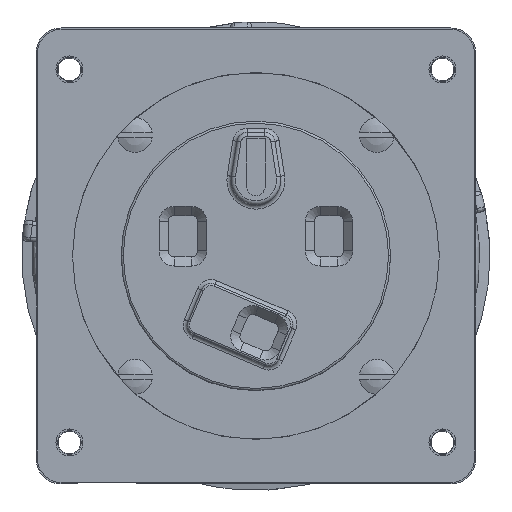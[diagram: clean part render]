
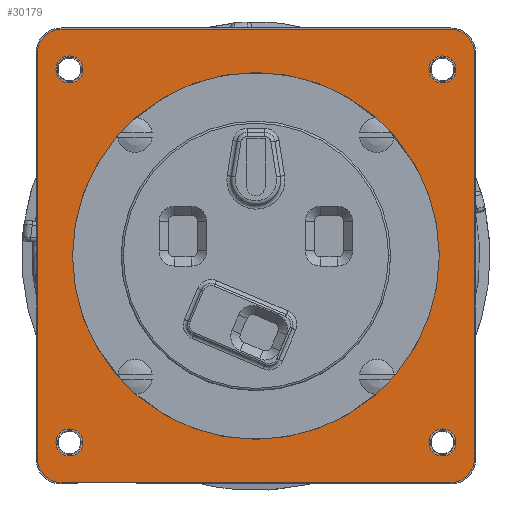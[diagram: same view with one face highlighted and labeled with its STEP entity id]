
A CAD part, top view. The second image highlights one B-rep face of the part: STEP entity #30179.
In plain terms, the highlighted planar face has unit normal (0, 0, 1).
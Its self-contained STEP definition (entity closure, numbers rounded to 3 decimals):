
#3889=CARTESIAN_POINT('',(-46.75,48.75,19.3));
#3890=DIRECTION('',(0.,0.,1.));
#3891=DIRECTION('',(0.,1.,0.));
#3892=AXIS2_PLACEMENT_3D('',#3889,#3890,#3891);
#3897=DIRECTION('',(-1.,0.,0.));
#3898=VECTOR('',#3897,93.5);
#3899=CARTESIAN_POINT('',(46.75,54.75,19.3));
#3900=LINE('3817',#3899,#3898);
#3904=CARTESIAN_POINT('',(46.75,48.75,19.3));
#3905=DIRECTION('',(0.,0.,1.));
#3906=DIRECTION('',(1.,0.,0.));
#3907=AXIS2_PLACEMENT_3D('',#3904,#3905,#3906);
#3912=DIRECTION('',(0.,1.,0.));
#3913=VECTOR('',#3912,97.5);
#3914=CARTESIAN_POINT('',(52.75,-48.75,19.3));
#3915=LINE('3815',#3914,#3913);
#3919=CARTESIAN_POINT('',(46.75,-48.75,19.3));
#3920=DIRECTION('',(0.,0.,1.));
#3921=DIRECTION('',(0.,-1.,0.));
#3922=AXIS2_PLACEMENT_3D('',#3919,#3920,#3921);
#3927=DIRECTION('',(1.,0.,0.));
#3928=VECTOR('',#3927,93.5);
#3929=CARTESIAN_POINT('',(-46.75,-54.75,19.3));
#3930=LINE('3813',#3929,#3928);
#3934=CARTESIAN_POINT('',(-46.75,-48.75,19.3));
#3935=DIRECTION('',(0.,0.,1.));
#3936=DIRECTION('',(-1.,0.,0.));
#3937=AXIS2_PLACEMENT_3D('',#3934,#3935,#3936);
#3942=DIRECTION('',(0.,-1.,0.));
#3943=VECTOR('',#3942,97.5);
#3944=CARTESIAN_POINT('',(-52.75,48.75,19.3));
#3945=LINE('3811',#3944,#3943);
#3949=CARTESIAN_POINT('',(0.,0.,19.3));
#3950=DIRECTION('',(0.,0.,-1.));
#3951=DIRECTION('',(1.,0.,0.));
#3952=AXIS2_PLACEMENT_3D('',#3949,#3950,#3951);
#3957=CARTESIAN_POINT('',(0.,0.,19.3));
#3958=DIRECTION('',(0.,0.,-1.));
#3959=DIRECTION('',(-1.,0.,0.));
#3960=AXIS2_PLACEMENT_3D('',#3957,#3958,#3959);
#3965=CARTESIAN_POINT('',(-45.,45.,19.3));
#3966=DIRECTION('',(0.,0.,1.));
#3967=DIRECTION('',(1.,0.,0.));
#3968=AXIS2_PLACEMENT_3D('',#3965,#3966,#3967);
#3973=CARTESIAN_POINT('',(-45.,45.,19.3));
#3974=DIRECTION('',(0.,0.,1.));
#3975=DIRECTION('',(-1.,0.,0.));
#3976=AXIS2_PLACEMENT_3D('',#3973,#3974,#3975);
#3981=CARTESIAN_POINT('',(45.,45.,19.3));
#3982=DIRECTION('',(0.,0.,1.));
#3983=DIRECTION('',(1.,0.,0.));
#3984=AXIS2_PLACEMENT_3D('',#3981,#3982,#3983);
#3989=CARTESIAN_POINT('',(45.,45.,19.3));
#3990=DIRECTION('',(0.,0.,1.));
#3991=DIRECTION('',(-1.,0.,0.));
#3992=AXIS2_PLACEMENT_3D('',#3989,#3990,#3991);
#3997=CARTESIAN_POINT('',(45.,-45.,19.3));
#3998=DIRECTION('',(0.,0.,1.));
#3999=DIRECTION('',(1.,0.,0.));
#4000=AXIS2_PLACEMENT_3D('',#3997,#3998,#3999);
#4005=CARTESIAN_POINT('',(45.,-45.,19.3));
#4006=DIRECTION('',(0.,0.,1.));
#4007=DIRECTION('',(-1.,0.,0.));
#4008=AXIS2_PLACEMENT_3D('',#4005,#4006,#4007);
#4013=CARTESIAN_POINT('',(-45.,-45.,19.3));
#4014=DIRECTION('',(0.,0.,1.));
#4015=DIRECTION('',(1.,0.,0.));
#4016=AXIS2_PLACEMENT_3D('',#4013,#4014,#4015);
#4021=CARTESIAN_POINT('',(-45.,-45.,19.3));
#4022=DIRECTION('',(0.,0.,1.));
#4023=DIRECTION('',(-1.,0.,0.));
#4024=AXIS2_PLACEMENT_3D('',#4021,#4022,#4023);
#25152=CARTESIAN_POINT('',(-46.75,54.75,19.3));
#25153=CARTESIAN_POINT('',(-52.75,48.75,19.3));
#25154=VERTEX_POINT('',#25152);
#25155=VERTEX_POINT('',#25153);
#25156=CARTESIAN_POINT('',(-52.75,-48.75,19.3));
#25157=VERTEX_POINT('',#25156);
#25158=CARTESIAN_POINT('',(-46.75,-54.75,19.3));
#25159=VERTEX_POINT('',#25158);
#25160=CARTESIAN_POINT('',(46.75,-54.75,19.3));
#25161=VERTEX_POINT('',#25160);
#25162=CARTESIAN_POINT('',(52.75,-48.75,19.3));
#25163=VERTEX_POINT('',#25162);
#25164=CARTESIAN_POINT('',(52.75,48.75,19.3));
#25165=VERTEX_POINT('',#25164);
#25166=CARTESIAN_POINT('',(46.75,54.75,19.3));
#25167=VERTEX_POINT('',#25166);
#25168=CARTESIAN_POINT('',(-41.75,45.,19.3));
#25169=CARTESIAN_POINT('',(-48.25,45.,19.3));
#25170=VERTEX_POINT('',#25168);
#25171=VERTEX_POINT('',#25169);
#25172=CARTESIAN_POINT('',(48.25,45.,19.3));
#25173=CARTESIAN_POINT('',(41.75,45.,19.3));
#25174=VERTEX_POINT('',#25172);
#25175=VERTEX_POINT('',#25173);
#25176=CARTESIAN_POINT('',(48.25,-45.,19.3));
#25177=CARTESIAN_POINT('',(41.75,-45.,19.3));
#25178=VERTEX_POINT('',#25176);
#25179=VERTEX_POINT('',#25177);
#25180=CARTESIAN_POINT('',(-41.75,-45.,19.3));
#25181=CARTESIAN_POINT('',(-48.25,-45.,19.3));
#25182=VERTEX_POINT('',#25180);
#25183=VERTEX_POINT('',#25181);
#25184=CARTESIAN_POINT('',(44.25,0.,19.3));
#25185=CARTESIAN_POINT('',(-44.25,0.,19.3));
#25186=VERTEX_POINT('',#25184);
#25187=VERTEX_POINT('',#25185);
#30134=CARTESIAN_POINT('',(0.,0.,19.3));
#30135=DIRECTION('',(0.,0.,1.));
#30136=DIRECTION('',(1.,0.,0.));
#30137=AXIS2_PLACEMENT_3D('',#30134,#30135,#30136);
#30138=PLANE('977',#30137);
#30139=ORIENTED_EDGE('3810',*,*,#29931,.F.);
#30140=ORIENTED_EDGE('3817',*,*,#29958,.F.);
#30141=ORIENTED_EDGE('3816',*,*,#29984,.F.);
#30142=ORIENTED_EDGE('3815',*,*,#30010,.F.);
#30143=ORIENTED_EDGE('3814',*,*,#30036,.F.);
#30144=ORIENTED_EDGE('3813',*,*,#30062,.F.);
#30145=ORIENTED_EDGE('3812',*,*,#30091,.F.);
#30146=ORIENTED_EDGE('3811',*,*,#30116,.F.);
#30147=EDGE_LOOP('977',(#30139,#30140,#30141,#30142,#30143,#30144,#30145,
#30146));
#30148=FACE_OUTER_BOUND('977',#30147,.F.);
#30150=ORIENTED_EDGE('3826',*,*,#30149,.F.);
#30152=ORIENTED_EDGE('3827',*,*,#30151,.F.);
#30153=EDGE_LOOP('977',(#30150,#30152));
#30154=FACE_BOUND('977',#30153,.F.);
#30156=ORIENTED_EDGE('3818',*,*,#30155,.T.);
#30158=ORIENTED_EDGE('3819',*,*,#30157,.T.);
#30159=EDGE_LOOP('977',(#30156,#30158));
#30160=FACE_BOUND('977',#30159,.F.);
#30162=ORIENTED_EDGE('3820',*,*,#30161,.T.);
#30164=ORIENTED_EDGE('3821',*,*,#30163,.T.);
#30165=EDGE_LOOP('977',(#30162,#30164));
#30166=FACE_BOUND('977',#30165,.F.);
#30168=ORIENTED_EDGE('3822',*,*,#30167,.T.);
#30170=ORIENTED_EDGE('3823',*,*,#30169,.T.);
#30171=EDGE_LOOP('977',(#30168,#30170));
#30172=FACE_BOUND('977',#30171,.F.);
#30174=ORIENTED_EDGE('3824',*,*,#30173,.T.);
#30176=ORIENTED_EDGE('3825',*,*,#30175,.T.);
#30177=EDGE_LOOP('977',(#30174,#30176));
#30178=FACE_BOUND('977',#30177,.F.);
#3893=CIRCLE('3810',#3892,6.);
#3908=CIRCLE('3816',#3907,6.);
#3923=CIRCLE('3814',#3922,6.);
#3938=CIRCLE('3812',#3937,6.);
#3953=CIRCLE('3826',#3952,44.25);
#3961=CIRCLE('3827',#3960,44.25);
#3969=CIRCLE('3818',#3968,3.25);
#3977=CIRCLE('3819',#3976,3.25);
#3985=CIRCLE('3820',#3984,3.25);
#3993=CIRCLE('3821',#3992,3.25);
#4001=CIRCLE('3822',#4000,3.25);
#4009=CIRCLE('3823',#4008,3.25);
#4017=CIRCLE('3824',#4016,3.25);
#4025=CIRCLE('3825',#4024,3.25);
#29931=EDGE_CURVE('3810',#25154,#25155,#3893,.T.);
#29958=EDGE_CURVE('3817',#25167,#25154,#3900,.T.);
#29984=EDGE_CURVE('3816',#25165,#25167,#3908,.T.);
#30010=EDGE_CURVE('3815',#25163,#25165,#3915,.T.);
#30036=EDGE_CURVE('3814',#25161,#25163,#3923,.T.);
#30062=EDGE_CURVE('3813',#25159,#25161,#3930,.T.);
#30091=EDGE_CURVE('3812',#25157,#25159,#3938,.T.);
#30116=EDGE_CURVE('3811',#25155,#25157,#3945,.T.);
#30149=EDGE_CURVE('3826',#25186,#25187,#3953,.T.);
#30151=EDGE_CURVE('3827',#25187,#25186,#3961,.T.);
#30155=EDGE_CURVE('3818',#25170,#25171,#3969,.T.);
#30157=EDGE_CURVE('3819',#25171,#25170,#3977,.T.);
#30161=EDGE_CURVE('3820',#25174,#25175,#3985,.T.);
#30163=EDGE_CURVE('3821',#25175,#25174,#3993,.T.);
#30167=EDGE_CURVE('3822',#25178,#25179,#4001,.T.);
#30169=EDGE_CURVE('3823',#25179,#25178,#4009,.T.);
#30173=EDGE_CURVE('3824',#25182,#25183,#4017,.T.);
#30175=EDGE_CURVE('3825',#25183,#25182,#4025,.T.);
#30179=ADVANCED_FACE('977',(#30148,#30154,#30160,#30166,#30172,#30178),#30138,
.T.);
